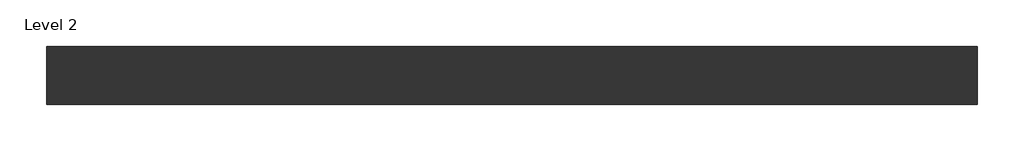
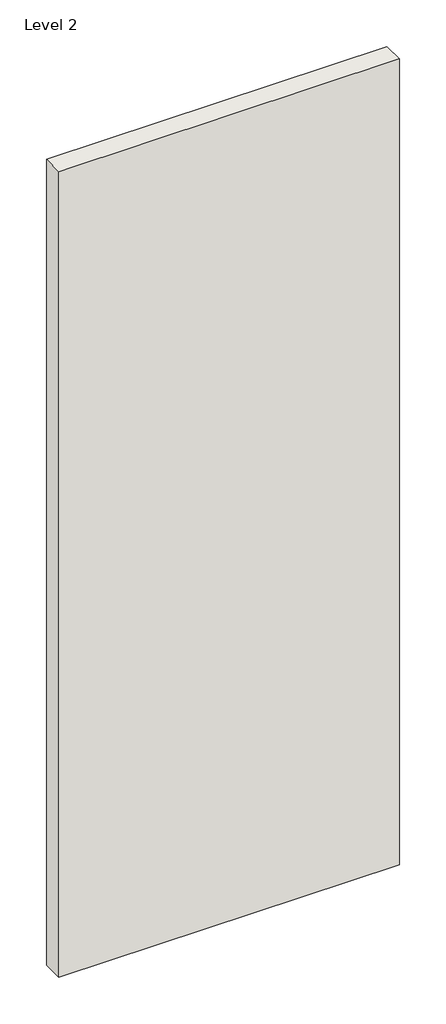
# One storey: 1 wall.
"""IFC4 building model written with IfcOpenShell, lengths in millimetres."""

from ifc_helpers import new_model, si_unit, frame, origin, place, context, project, spatial, polyline, outline, extrude, element, save

model = new_model("IFC4")

# Units and contexts
model_context = context("Model", 3, world=origin())
ifc_project = project(units=[si_unit("LENGTHUNIT", "METRE", prefix="MILLI")], contexts=[model_context])

# Site, building, storey
site = spatial("IfcSite", under=ifc_project)
building = spatial("IfcBuilding", under=site)
storey = spatial("IfcBuildingStorey", under=building, Name="Level 2", Elevation=4000.0)

# Wall
placement = place(None, origin())
element("IfcWall", 1, ObjectType="RIGIPS - 3.21.10_3.21.15 - EI 15, REI 15 - 12dB", at=placement, inside=storey, context=model_context, shape_type="SweptSolid", body=[
    extrude(outline(polyline([(1000.0, -31.25), (0.0, -31.25), (0.0, 31.25), (1000.0, 31.25), (1000.0, -31.25)])), frame((0.0, 0.0, 4000.0), z_axis=(0.0, 0.0, 1.0), x_axis=(1.0, 0.0, 0.0)), (0.0, 0.0, 1.0), 2500.0),
])

save(model, "model.ifc")
